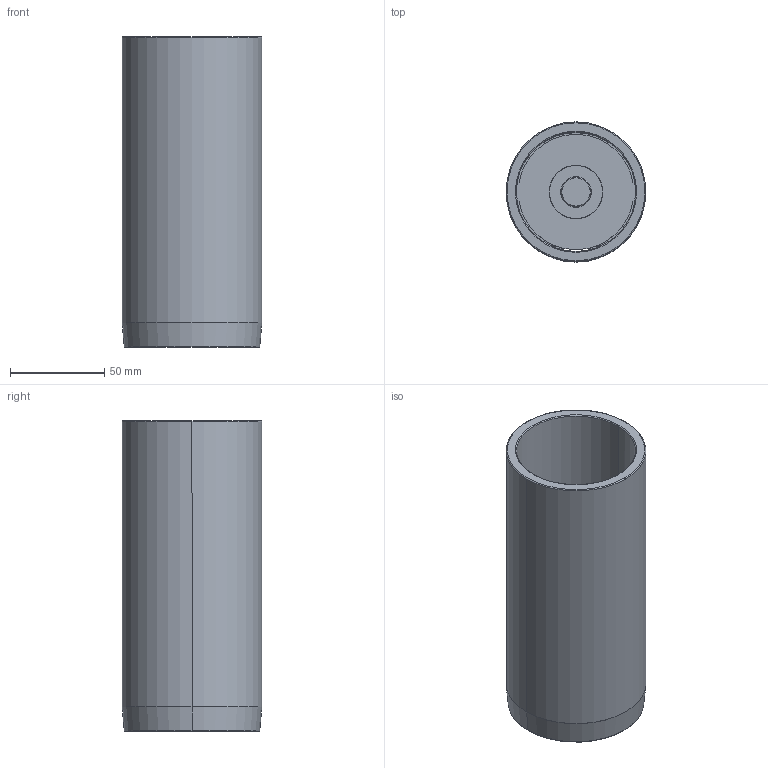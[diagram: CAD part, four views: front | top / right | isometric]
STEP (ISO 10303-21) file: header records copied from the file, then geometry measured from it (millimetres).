
FILE_DESCRIPTION((''),'2;1');
FILE_NAME('C12_063_165.stp','2009-01-29T09:34:16',(''),(''),'Mechanical Desktop 2009','Mechanical Desktop 2009',', , ');
FILE_SCHEMA(('CONFIG_CONTROL_DESIGN'));
Length unit declared in the file: millimetre
Products named in the file (2): Product; blmdl1
Assembly tree (1 placements, depth 2):
  Product
    blmdl1
Bounding box: 74.25 x 74.25 x 165 mm (x, y, z)
Volume: 208362.3 mm3; surface area: 87766 mm2
Topology: 5 solids, 5 shells, 79 faces, 200 edges, 134 vertices
Faces by surface type: cylinder 34, plane 29, torus 10, cone 6
Entity records: 2585 total; most frequent: DIRECTION 480, CARTESIAN_POINT 435, ORIENTED_EDGE 400, AXIS2_PLACEMENT_3D 203, EDGE_CURVE 200, VERTEX_POINT 134, CIRCLE 122, EDGE_LOOP 92
